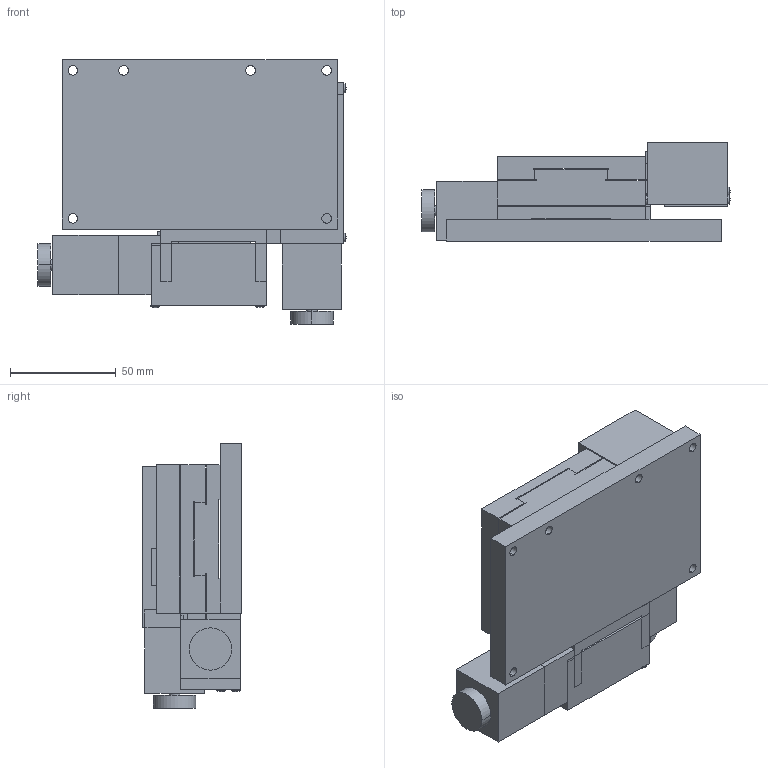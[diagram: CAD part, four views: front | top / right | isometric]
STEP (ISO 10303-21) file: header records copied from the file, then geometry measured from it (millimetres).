
FILE_DESCRIPTION (( 'STEP AP203' ), '1' );
FILE_NAME ('AD701A1P.STEP', '2026-03-31T05:27:15', ( '' ), ( '' ), 'SwSTEP 2.0', 'SolidWorks 2021', '' );
FILE_SCHEMA (( 'CONFIG_CONTROL_DESIGN' ));
Length unit declared in the file: millimetre
Products named in the file (6): AD701A1P-3^AD701A1P_ATR701AL_2; AD701A1P-5^AD701A1P_ATR701AL_2; AD701A1P-1^AD701A1P_ATR701AL_2; AD701A1P-4^AD701A1P_ATR701AL_2; AD701A1P; AD701A1P-2^AD701A1P_ATR701AL_2
Assembly tree (5 placements, depth 2):
  AD701A1P
    AD701A1P-1^AD701A1P_ATR701AL_2
    AD701A1P-2^AD701A1P_ATR701AL_2
    AD701A1P-3^AD701A1P_ATR701AL_2
    AD701A1P-4^AD701A1P_ATR701AL_2
    AD701A1P-5^AD701A1P_ATR701AL_2
Bounding box: 145.65 x 46.5 x 125 mm (x, y, z)
Volume: 447394.5 mm3; surface area: 116117.6 mm2
Topology: 17 solids, 17 shells, 322 faces, 793 edges, 514 vertices
Faces by surface type: plane 211, cylinder 83, cone 24, bspline 4
Entity records: 10797 total; most frequent: CARTESIAN_POINT 2536, DIRECTION 1565, ORIENTED_EDGE 1554, EDGE_CURVE 777, VECTOR 547, LINE 547, VERTEX_POINT 514, AXIS2_PLACEMENT_3D 509
